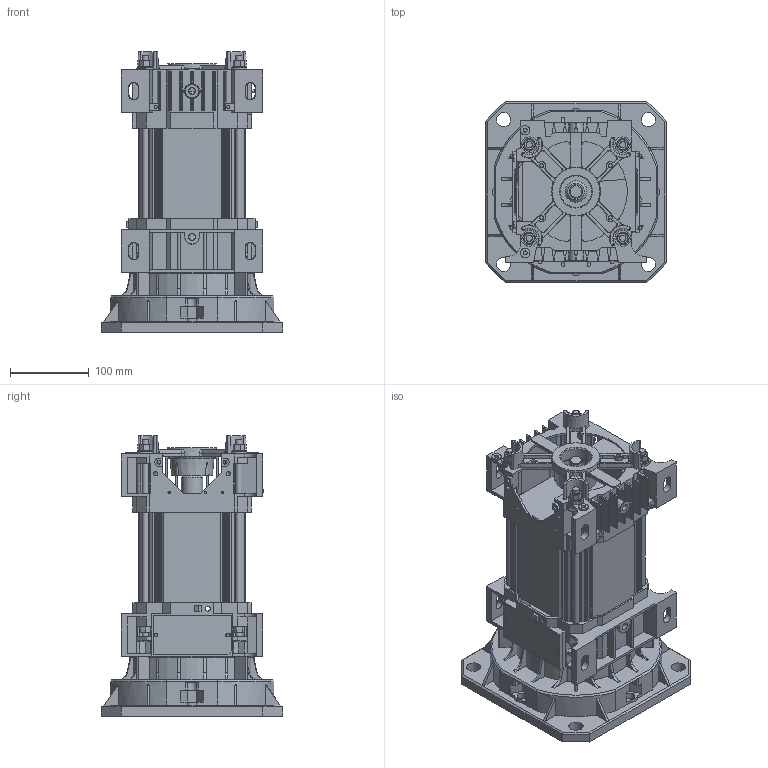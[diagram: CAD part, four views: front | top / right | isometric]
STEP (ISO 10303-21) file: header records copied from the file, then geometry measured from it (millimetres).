
FILE_DESCRIPTION(/* description */ ('Motore Tipo S36 Fl.220 F32-H125 NO Volano NO Piedi'),/* implementation_level */ '2;1');
FILE_NAME(/* name */ 'Y:\ServerTecnico\Mockup Motori x Sito Elmo\Mockup Tipo S36 Size 3 FL220 F32-H125 NO Volano.stp',/* time_stamp */ '2016-10-06T09:40:52+02:00',/* author */ ('aparmini'),/* organization */ (''),/* preprocessor_version */ 'ST-DEVELOPER v16.5',/* originating_system */ 'Autodesk Inventor 2017',/* authorisation */ '');
FILE_SCHEMA (('AUTOMOTIVE_DESIGN { 1 0 10303 214 3 1 1 }'));
Products named in the file (10): Mockup Tipo S36 Size 3 FL220 F32-H125 NO Volano; Mockup CP3XD040N; Mockup CA3SD220N; CAS3 per flangia 220 06-05-2009; CASD SEMI220 SIZE3 06-05-2009; Mockup Statore Size 3 - F32-H125 NO Volano; TGS10; TI08ML250; UNI 5587 - M8; DIN 125-2 - B 8,4
Assembly tree (22 placements, depth 3):
  Mockup Tipo S36 Size 3 FL220 F32-H125 NO Volano
    Mockup CP3XD040N
    Mockup CA3SD220N
      CAS3 per flangia 220 06-05-2009
      CASD SEMI220 SIZE3 06-05-2009
    Mockup Statore Size 3 - F32-H125 NO Volano
    TGS10
    UNI 5587 - M8  x8
    TI08ML250  x4
    DIN 125-2 - B 8,4  x4
Bounding box: 230 x 230 x 356 mm (x, y, z)
Volume: 3388170 mm3; surface area: 694346.5 mm2
Topology: 21 solids, 21 shells, 2100 faces, 5804 edges, 3766 vertices
Faces by surface type: plane 1147, cylinder 497, cone 356, bspline 46, torus 38, sphere 16
Full cylindrical faces by diameter (mm): 3.2 x3, 4 x8, 4.917 x4, 5 x2, 6.2 x2, 6.647 x8, 8 x4, 8.4 x4, 12 x6, 16 x4, 17 x1, 18 x4, 20 x4, 21 x1, 27.5 x1, 32 x1, 40 x2, 40.1 x1, 42.5 x1, 46 x1, 48 x1, 49.5 x1, 72 x1, 220 x1
Entity records: 63876 total; most frequent: CARTESIAN_POINT 13146, DIRECTION 10677, ORIENTED_EDGE 10572, EDGE_CURVE 5286, AXIS2_PLACEMENT_3D 3707, VERTEX_POINT 3520, LINE 3263, VECTOR 3263
